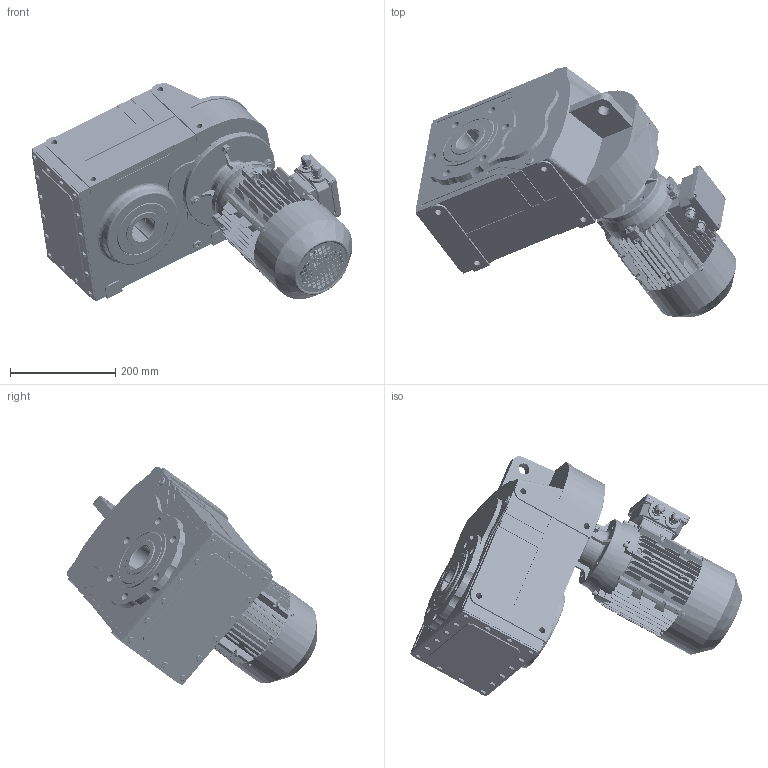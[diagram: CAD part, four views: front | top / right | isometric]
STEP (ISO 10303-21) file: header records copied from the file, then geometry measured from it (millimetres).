
FILE_DESCRIPTION (( 'STEP AP203' ), '1' );
FILE_NAME ('DV_473_0_MX3 90S.STEP', '2018-11-15T12:07:18', ( '' ), ( '' ), 'SwSTEP 2.0', 'SolidWorks 2012', '' );
FILE_SCHEMA (( 'CONFIG_CONTROL_DESIGN' ));
Products named in the file (28): DV_473_0_MX3 90S; MX3-90S_B14; IE3 90S flange; IE3 90S flange B14; hexagon socket head cap screws gb_GB_FASTENER_SCREWS_HSHCS M6X30-N; hexagon nuts grade c gb_GB_FASTENER_NUT_SNC1 M6-N; IE3 90S  oil seal; IE3 90L cable glandsM16; circlips for shaft--type b gb_GB_CONNECTING_PIECE_RINGS_CSB 20; cross recessed pan head screws gb_GB_CROSS_SCREWS_TYPE1 M5X10-10  H type-N; hexagon head bolts-full thread gb_GB_FASTENER_BOLT_STBAB A M4X16-N; IE3 90S connection board; cross recessed pan head screws gb_GB_CROSS_SCREWS_TYPE1 M5X20-20  H type-N; hexagon flange head tapping screws gb_GB_SQUARE_AND_HEXAGON_TYPE137 ST3.5X9.5 F-N; spring lock washers--normal type gb_GB_FASTENER_WASHER_SW 6; cross recessed pan head tapping screws gb_GB_CROSS_SCREWS_TYPE128 ST4.2X9.5 H C-N; hex nuts, style 1-grades ab gb_GB_FASTENER_NUT_SNAB1 M6-N; IE3 90S fan cover; IE3 90S terminal box; IE3 90S terminal box cover; plain parallel keys_GB_CONNECTING_PIECE_KEYS_CSK 8X40; deep groove ball bearings gb_Rolling bearings 6205 GB 276-94; IE3 90S rotor; IE3 90S fan; IE3 90S casing; 3390B14_Varsayìlan; ML58A_Varsayìlan; D473_Varsayìlan
Assembly tree (64 placements, depth 3):
  DV_473_0_MX3 90S
    D473_Varsayìlan
    3390B14_Varsayìlan
    ML58A_Varsayìlan
    MX3-90S_B14
      IE3 90S casing
      IE3 90S rotor
      deep groove ball bearings gb_Rolling bearings 6205 GB 276-94  x2
      IE3 90S fan
      IE3 90S fan cover
      plain parallel keys_GB_CONNECTING_PIECE_KEYS_CSK 8X40
      IE3 90S terminal box
      IE3 90S terminal box cover
      spring lock washers--normal type gb_GB_FASTENER_WASHER_SW 6  x8
      hex nuts, style 1-grades ab gb_GB_FASTENER_NUT_SNAB1 M6-N  x5
      cross recessed pan head tapping screws gb_GB_CROSS_SCREWS_TYPE128 ST4.2X9.5 H C-N  x4
      hexagon flange head tapping screws gb_GB_SQUARE_AND_HEXAGON_TYPE137 ST3.5X9.5 F-N  x4
      IE3 90S connection board
      hexagon head bolts-full thread gb_GB_FASTENER_BOLT_STBAB A M4X16-N  x6
      cross recessed pan head screws gb_GB_CROSS_SCREWS_TYPE1 M5X20-20  H type-N  x2
      cross recessed pan head screws gb_GB_CROSS_SCREWS_TYPE1 M5X10-10  H type-N  x4
      IE3 90L cable glandsM16  x2
      circlips for shaft--type b gb_GB_CONNECTING_PIECE_RINGS_CSB 20
      IE3 90S  oil seal
      IE3 90S flange
      hexagon socket head cap screws gb_GB_FASTENER_SCREWS_HSHCS M6X30-N  x8
      IE3 90S flange B14
      hexagon nuts grade c gb_GB_FASTENER_NUT_SNC1 M6-N  x3
Bounding box: 610.29 x 475.86 x 415.99 mm (x, y, z)
Volume: 19722159.8 mm3; surface area: 1571151.1 mm2
Topology: 63 solids, 63 shells, 6096 faces, 15673 edges, 9733 vertices
Faces by surface type: plane 2329, cylinder 1719, bspline 1325, cone 594, sphere 81, torus 48
Entity records: 210883 total; most frequent: CARTESIAN_POINT 90141, ORIENTED_EDGE 26644, DIRECTION 21092, EDGE_CURVE 13322, VERTEX_POINT 8332, AXIS2_PLACEMENT_3D 7587, LINE 5918, VECTOR 5918
